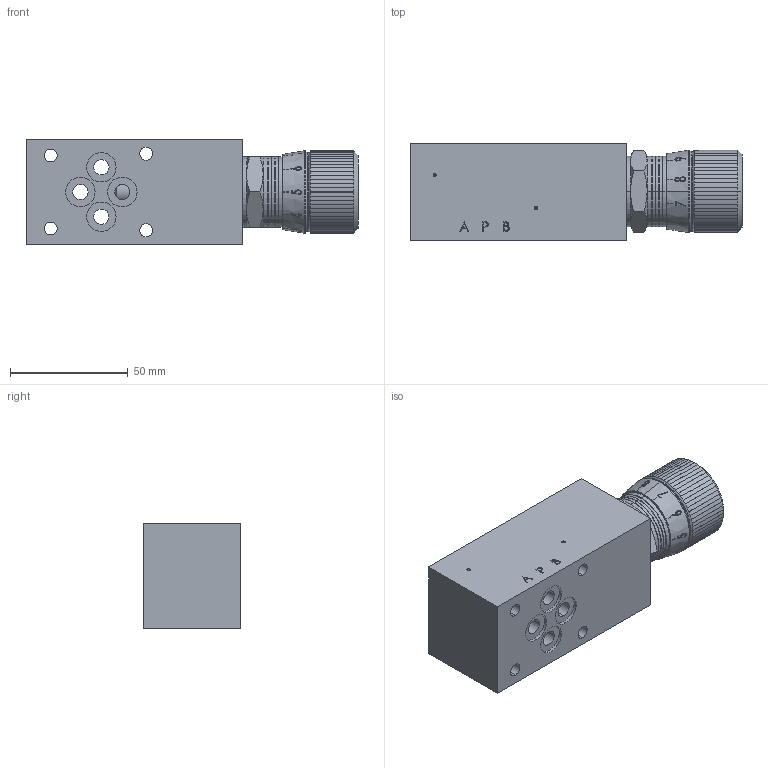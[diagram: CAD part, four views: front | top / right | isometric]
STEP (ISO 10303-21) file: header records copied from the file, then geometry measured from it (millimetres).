
FILE_DESCRIPTION (( 'STEP AP214' ), '1' );
FILE_NAME ('ADRB6.STEP', '2017-04-10T12:57:09', ( '' ), ( '' ), 'SwSTEP 2.0', 'SolidWorks 2016', '' );
FILE_SCHEMA (( 'AUTOMOTIVE_DESIGN' ));
Length unit declared in the file: millimetre
Products named in the file (1): ADRB6
Bounding box: 141 x 41.5 x 45 mm (x, y, z)
Volume: 204080.9 mm3; surface area: 31668.7 mm2
Topology: 1 solids, 1 shells, 945 faces, 2628 edges, 1718 vertices
Faces by surface type: plane 593, cylinder 139, bspline 133, cone 76, torus 4
Entity records: 55613 total; most frequent: CARTESIAN_POINT 23144, ORIENTED_EDGE 5240, DIRECTION 3686, EDGE_CURVE 2620, VERTEX_POINT 1718, AXIS2_PLACEMENT_3D 1330, B_SPLINE_CURVE_WITH_KNOTS 1045, LINE 1026
